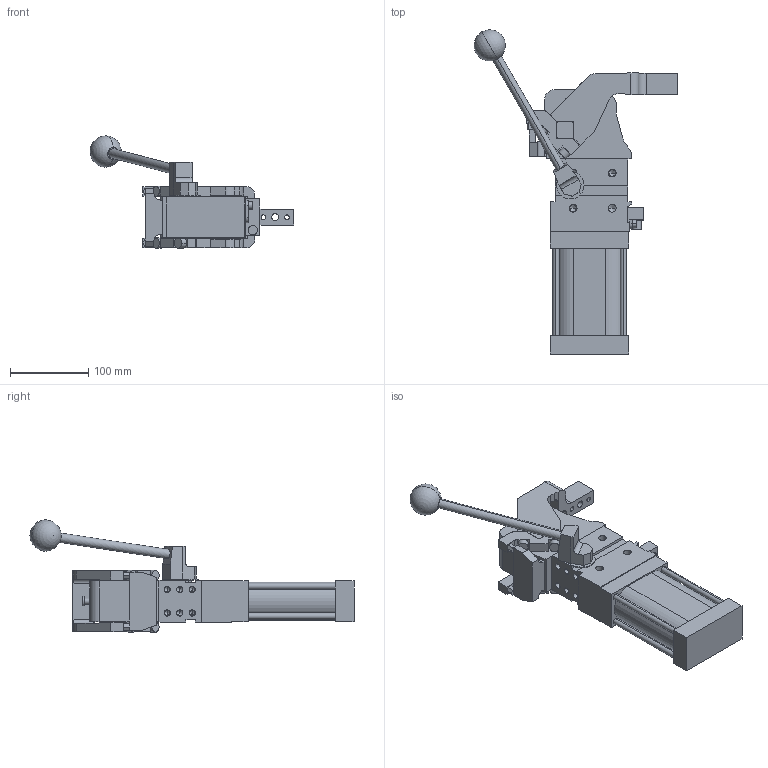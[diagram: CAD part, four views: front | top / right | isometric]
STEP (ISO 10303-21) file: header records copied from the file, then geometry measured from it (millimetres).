
FILE_DESCRIPTION (( 'STEP AP214' ), '1' );
FILE_NAME ('cplm63latv3csi1g_26.STEP', '2023-01-26T15:09:09', ( '' ), ( '' ), 'SwSTEP 2.0', 'SolidWorks 2022', '' );
FILE_SCHEMA (( 'AUTOMOTIVE_DESIGN' ));
Length unit declared in the file: millimetre
Products named in the file (5): comando_manuale_cplm_63; blocchetto_VEP_0; cplm63latv3csi1g_26; leva_v3cs_cpl63t; meccanica_cplm_63_tassello_esterno
Assembly tree (4 placements, depth 2):
  cplm63latv3csi1g_26
    meccanica_cplm_63_tassello_esterno
    blocchetto_VEP_0
    leva_v3cs_cpl63t
    comando_manuale_cplm_63
Bounding box: 260.57 x 414.56 x 143.5 mm (x, y, z)
Volume: 1922080.6 mm3; surface area: 219996.7 mm2
Topology: 4 solids, 4 shells, 469 faces, 1239 edges, 773 vertices
Faces by surface type: plane 250, cylinder 167, cone 50, sphere 2
Entity records: 15766 total; most frequent: CARTESIAN_POINT 2510, DIRECTION 2506, ORIENTED_EDGE 2376, EDGE_CURVE 1188, AXIS2_PLACEMENT_3D 848, LINE 810, VECTOR 810, VERTEX_POINT 770
